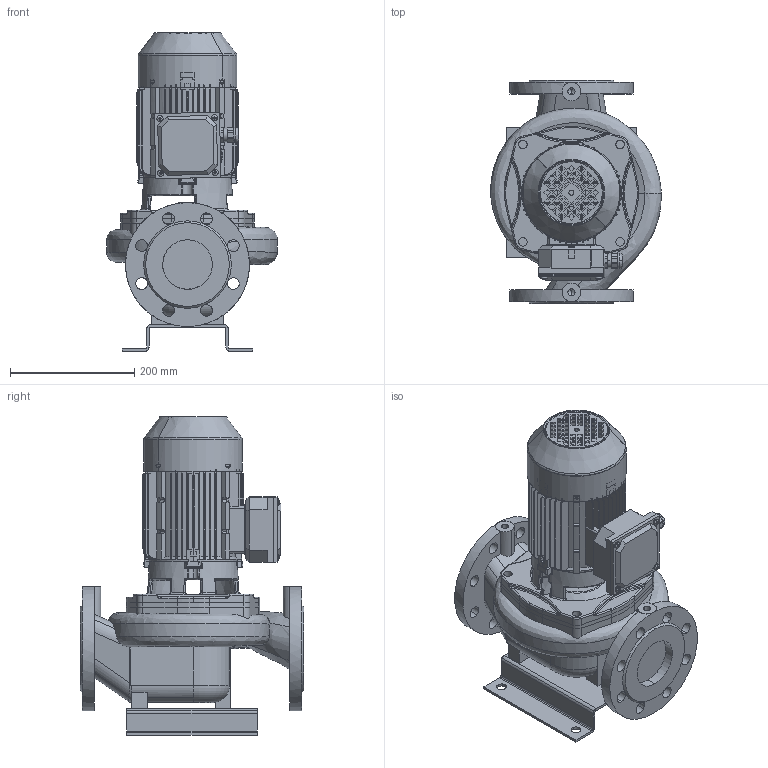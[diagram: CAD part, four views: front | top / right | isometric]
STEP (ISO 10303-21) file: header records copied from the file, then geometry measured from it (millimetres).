
FILE_DESCRIPTION(('STEP AP214'),'1');
FILE_NAME('export.stp','2018-05-29T07:26:23',(' '),(' '),'Spatial InterOp 3D',' ',' ');
FILE_SCHEMA(('AUTOMOTIVE_DESIGN { 1 0 10303 214 1 1 1 1 }'));
Length unit declared in the file: millimetre
Products named in the file (22): W_L80A4750_KP-80; V_TLL65AB80A1102; V_PPL80A; V_JALKA35973; 160022; 160003; V_MKP80-2_F19; 160141; 160137; 160138; 160139; 160140; Koura_Ale_M5; Plug_Blind_M20; Sealing_Plug_M20; DIN_7985-M5X8; DIN_7985-M5X12; 480032; 480031___; 480034; 480033___; 160133
Assembly tree (24 placements, depth 4):
  W_L80A4750_KP-80
    V_TLL65AB80A1102
    V_PPL80A
    V_JALKA35973
    V_MKP80-2_F19
      160022
        160003
      160141
        160137
        160138
        160139
        160140
        Koura_Ale_M5
        Plug_Blind_M20
        Sealing_Plug_M20
        DIN_7985-M5X8
        DIN_7985-M5X12  x4
      480032
        480031___
      480034
        480033___
      160133
Bounding box: 275.46 x 360 x 514.11 mm (x, y, z)
Volume: 7779284.1 mm3; surface area: 1306258 mm2
Topology: 19 solids, 19 shells, 2868 faces, 7543 edges, 4693 vertices
Faces by surface type: plane 1074, cylinder 937, bspline 364, torus 282, cone 147, sphere 64
Entity records: 114268 total; most frequent: CARTESIAN_POINT 42882, ORIENTED_EDGE 14654, DIRECTION 13369, EDGE_CURVE 7327, AXIS2_PLACEMENT_3D 5084, VERTEX_POINT 4597, LINE 3201, VECTOR 3201
